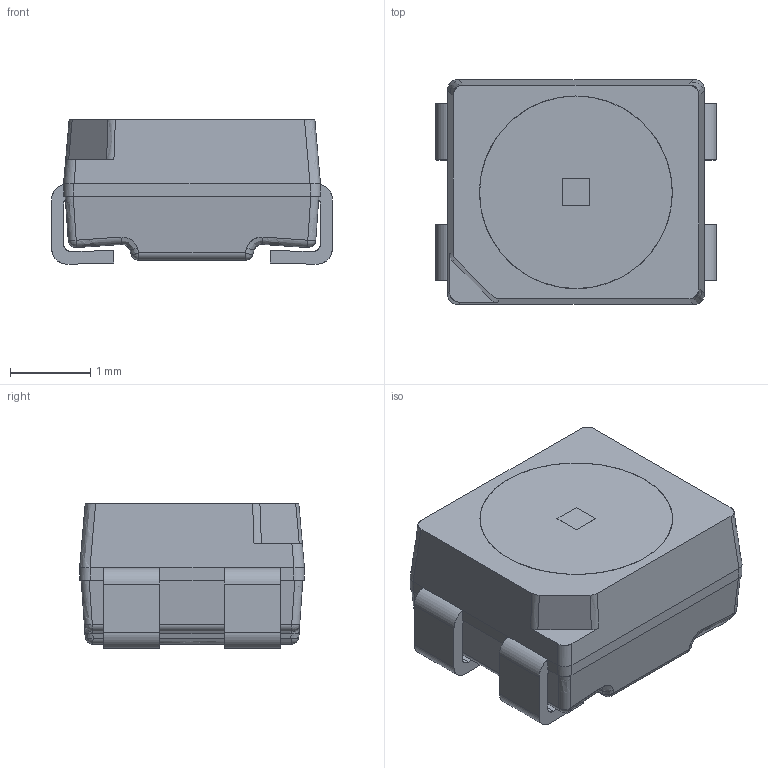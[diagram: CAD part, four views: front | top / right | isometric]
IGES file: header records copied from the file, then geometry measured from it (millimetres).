
Start section: SolidWorks IGES file using analytic representation for surfaces
Global section: file name: C:\Users\user\Desktop\XYY\1-车灯产品3D图汇总\3528\LDB-OK\光学模型\LDB.IGS; native system: SolidWorks 2022; preprocessor: SolidWorks 2022; author: user; date: 250323.155700; units: millimetre
Bounding box: 3.5 x 2.8 x 1.8 mm (x, y, z)
Surface area: 72.9 mm2 (no closed solid volume)
Topology: 0 solids, 0 shells, 398 faces, 11852 edges, 12955 vertices
Faces by surface type: revolution 199, bspline 199
